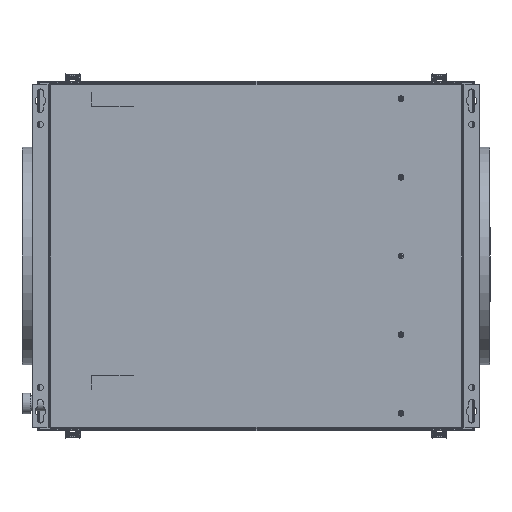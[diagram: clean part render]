
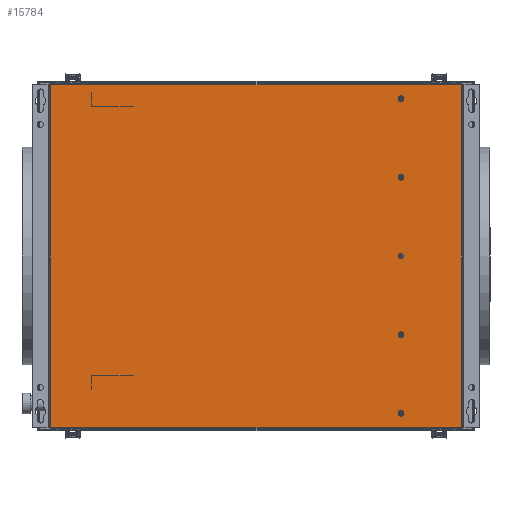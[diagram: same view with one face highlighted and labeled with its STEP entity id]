
A CAD part, front view. The second image highlights one B-rep face of the part: STEP entity #15784.
In plain terms, the highlighted planar face has unit normal (0, -1, 0).
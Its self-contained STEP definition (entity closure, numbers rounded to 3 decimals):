
#119 = AXIS2_PLACEMENT_3D ( 'NONE', #28168, #14746, #1329 ) ;
#535 = ORIENTED_EDGE ( 'NONE', *, *, #23380, .F. ) ;
#654 = DIRECTION ( 'NONE',  ( 0., 0., -1. ) ) ;
#1157 = VECTOR ( 'NONE', #26096, 1000. ) ;
#1175 = CARTESIAN_POINT ( 'NONE',  ( 210., 0., -114. ) ) ;
#1329 = DIRECTION ( 'NONE',  ( 0., 0., -1. ) ) ;
#1420 = DIRECTION ( 'NONE',  ( 0., 0., -1. ) ) ;
#1510 = CARTESIAN_POINT ( 'NONE',  ( -297., 0., 248. ) ) ;
#1733 = EDGE_CURVE ( 'NONE', #9918, #23499, #22818, .T. ) ;
#1844 = LINE ( 'NONE', #1510, #1157 ) ;
#2053 = CARTESIAN_POINT ( 'NONE',  ( 210., 0., -230.1 ) ) ;
#2648 = CIRCLE ( 'NONE', #2673, 2.1 ) ;
#2673 = AXIS2_PLACEMENT_3D ( 'NONE', #13011, #28691, #15276 ) ;
#3190 = CARTESIAN_POINT ( 'NONE',  ( 297., 0., 248. ) ) ;
#3207 = DIRECTION ( 'NONE',  ( 0., -1., 0. ) ) ;
#3425 = DIRECTION ( 'NONE',  ( 0., 0., -1. ) ) ;
#3799 = EDGE_LOOP ( 'NONE', ( #21648, #15936 ) ) ;
#3882 = EDGE_CURVE ( 'NONE', #17069, #19340, #11313, .T. ) ;
#4321 = EDGE_LOOP ( 'NONE', ( #535, #14015 ) ) ;
#4442 = CARTESIAN_POINT ( 'NONE',  ( 210., 0., -228. ) ) ;
#4585 = DIRECTION ( 'NONE',  ( 0., 0., -1. ) ) ;
#5100 = FACE_OUTER_BOUND ( 'NONE', #7826, .T. ) ;
#5321 = VERTEX_POINT ( 'NONE', #17189 ) ;
#5468 = CIRCLE ( 'NONE', #119, 2.1 ) ;
#6144 = CARTESIAN_POINT ( 'NONE',  ( 210., 0., -228. ) ) ;
#6694 = DIRECTION ( 'NONE',  ( 0., 0., -1. ) ) ;
#6736 = CARTESIAN_POINT ( 'NONE',  ( 299., 0., 250. ) ) ;
#7113 = VERTEX_POINT ( 'NONE', #3190 ) ;
#7369 = EDGE_LOOP ( 'NONE', ( #9256, #25908 ) ) ;
#7567 = AXIS2_PLACEMENT_3D ( 'NONE', #4442, #20096, #6694 ) ;
#7741 = ORIENTED_EDGE ( 'NONE', *, *, #10445, .F. ) ;
#7826 = EDGE_LOOP ( 'NONE', ( #10208, #26963, #17728, #14320 ) ) ;
#8185 = DIRECTION ( 'NONE',  ( 0., -1., 0. ) ) ;
#8357 = DIRECTION ( 'NONE',  ( 0., 0., -1. ) ) ;
#8382 = CARTESIAN_POINT ( 'NONE',  ( 210., 0., -225.9 ) ) ;
#8527 = CARTESIAN_POINT ( 'NONE',  ( 210., 0., 114. ) ) ;
#8659 = VERTEX_POINT ( 'NONE', #9288 ) ;
#8993 = VERTEX_POINT ( 'NONE', #8382 ) ;
#9208 = VECTOR ( 'NONE', #11056, 1000. ) ;
#9256 = ORIENTED_EDGE ( 'NONE', *, *, #12677, .F. ) ;
#9288 = CARTESIAN_POINT ( 'NONE',  ( 210., 0., -2.1 ) ) ;
#9333 = CARTESIAN_POINT ( 'NONE',  ( -299., 0., -248. ) ) ;
#9622 = FACE_BOUND ( 'NONE', #19390, .T. ) ;
#9749 = AXIS2_PLACEMENT_3D ( 'NONE', #21625, #8185, #23909 ) ;
#9894 = CARTESIAN_POINT ( 'NONE',  ( 297., 0., -248. ) ) ;
#9918 = VERTEX_POINT ( 'NONE', #27227 ) ;
#9954 = VERTEX_POINT ( 'NONE', #18490 ) ;
#10208 = ORIENTED_EDGE ( 'NONE', *, *, #14141, .T. ) ;
#10325 = FACE_BOUND ( 'NONE', #4321, .T. ) ;
#10445 = EDGE_CURVE ( 'NONE', #5321, #22993, #13651, .T. ) ;
#10798 = DIRECTION ( 'NONE',  ( 0., 0., -1. ) ) ;
#10833 = AXIS2_PLACEMENT_3D ( 'NONE', #6736, #18004, #4585 ) ;
#11056 = DIRECTION ( 'NONE',  ( -1., 0., 0. ) ) ;
#11130 = VERTEX_POINT ( 'NONE', #13367 ) ;
#11313 = LINE ( 'NONE', #9333, #16593 ) ;
#11553 = CARTESIAN_POINT ( 'NONE',  ( 210., 0., 2.1 ) ) ;
#12190 = DIRECTION ( 'NONE',  ( 0., 0., 1. ) ) ;
#12608 = AXIS2_PLACEMENT_3D ( 'NONE', #1175, #16861, #3425 ) ;
#12677 = EDGE_CURVE ( 'NONE', #8659, #16346, #2648, .T. ) ;
#12780 = CARTESIAN_POINT ( 'NONE',  ( -297., 0., -248. ) ) ;
#13011 = CARTESIAN_POINT ( 'NONE',  ( 210., 0., 0. ) ) ;
#13227 = EDGE_CURVE ( 'NONE', #22356, #8993, #25791, .T. ) ;
#13367 = CARTESIAN_POINT ( 'NONE',  ( 210., 0., 116.1 ) ) ;
#13571 = CARTESIAN_POINT ( 'NONE',  ( 210., 0., 225.9 ) ) ;
#13651 = CIRCLE ( 'NONE', #9749, 2.1 ) ;
#13745 = CARTESIAN_POINT ( 'NONE',  ( 210., 0., -116.1 ) ) ;
#14015 = ORIENTED_EDGE ( 'NONE', *, *, #21122, .F. ) ;
#14059 = DIRECTION ( 'NONE',  ( 0., -1., 0. ) ) ;
#14141 = EDGE_CURVE ( 'NONE', #7113, #9954, #19726, .T. ) ;
#14320 = ORIENTED_EDGE ( 'NONE', *, *, #22064, .T. ) ;
#14610 = EDGE_LOOP ( 'NONE', ( #17130, #7741 ) ) ;
#14746 = DIRECTION ( 'NONE',  ( 0., -1., 0. ) ) ;
#14842 = DIRECTION ( 'NONE',  ( 0., -1., 0. ) ) ;
#15276 = DIRECTION ( 'NONE',  ( 0., 0., -1. ) ) ;
#15606 = FACE_BOUND ( 'NONE', #7369, .T. ) ;
#15662 = PLANE ( 'NONE',  #10833 ) ;
#15784 = ADVANCED_FACE ( 'NONE', ( #10325, #21560, #5100, #15606, #19104, #9622 ), #15662, .T. ) ;
#15936 = ORIENTED_EDGE ( 'NONE', *, *, #1733, .F. ) ;
#16346 = VERTEX_POINT ( 'NONE', #11553 ) ;
#16418 = CIRCLE ( 'NONE', #26694, 2.1 ) ;
#16593 = VECTOR ( 'NONE', #18252, 1000. ) ;
#16658 = CARTESIAN_POINT ( 'NONE',  ( 210., 0., 114. ) ) ;
#16861 = DIRECTION ( 'NONE',  ( 0., -1., 0. ) ) ;
#17024 = EDGE_CURVE ( 'NONE', #22993, #5321, #20424, .T. ) ;
#17052 = EDGE_CURVE ( 'NONE', #9954, #17069, #1844, .T. ) ;
#17069 = VERTEX_POINT ( 'NONE', #12780 ) ;
#17130 = ORIENTED_EDGE ( 'NONE', *, *, #17024, .F. ) ;
#17189 = CARTESIAN_POINT ( 'NONE',  ( 210., 0., 230.1 ) ) ;
#17728 = ORIENTED_EDGE ( 'NONE', *, *, #3882, .T. ) ;
#17755 = LINE ( 'NONE', #9894, #28958 ) ;
#18004 = DIRECTION ( 'NONE',  ( 0., -1., 0. ) ) ;
#18252 = DIRECTION ( 'NONE',  ( 1., 0., 0. ) ) ;
#18408 = CARTESIAN_POINT ( 'NONE',  ( 297., 0., -248. ) ) ;
#18490 = CARTESIAN_POINT ( 'NONE',  ( -297., 0., 248. ) ) ;
#18617 = AXIS2_PLACEMENT_3D ( 'NONE', #6144, #21799, #8357 ) ;
#18876 = DIRECTION ( 'NONE',  ( 0., 0., -1. ) ) ;
#19104 = FACE_BOUND ( 'NONE', #3799, .T. ) ;
#19340 = VERTEX_POINT ( 'NONE', #18408 ) ;
#19390 = EDGE_LOOP ( 'NONE', ( #24136, #21766 ) ) ;
#19589 = AXIS2_PLACEMENT_3D ( 'NONE', #8527, #24243, #10798 ) ;
#19726 = LINE ( 'NONE', #19964, #9208 ) ;
#19964 = CARTESIAN_POINT ( 'NONE',  ( 299., 0., 248. ) ) ;
#20096 = DIRECTION ( 'NONE',  ( 0., -1., 0. ) ) ;
#20424 = CIRCLE ( 'NONE', #21569, 2.1 ) ;
#20518 = CIRCLE ( 'NONE', #19589, 2.1 ) ;
#21122 = EDGE_CURVE ( 'NONE', #11130, #24850, #16418, .T. ) ;
#21257 = EDGE_CURVE ( 'NONE', #8993, #22356, #25534, .T. ) ;
#21538 = EDGE_CURVE ( 'NONE', #16346, #8659, #22341, .T. ) ;
#21560 = FACE_BOUND ( 'NONE', #14610, .T. ) ;
#21569 = AXIS2_PLACEMENT_3D ( 'NONE', #28263, #14842, #1420 ) ;
#21625 = CARTESIAN_POINT ( 'NONE',  ( 210., 0., 228. ) ) ;
#21648 = ORIENTED_EDGE ( 'NONE', *, *, #23284, .F. ) ;
#21766 = ORIENTED_EDGE ( 'NONE', *, *, #21257, .F. ) ;
#21799 = DIRECTION ( 'NONE',  ( 0., -1., 0. ) ) ;
#22064 = EDGE_CURVE ( 'NONE', #19340, #7113, #17755, .T. ) ;
#22341 = CIRCLE ( 'NONE', #28592, 2.1 ) ;
#22356 = VERTEX_POINT ( 'NONE', #2053 ) ;
#22818 = CIRCLE ( 'NONE', #12608, 2.1 ) ;
#22993 = VERTEX_POINT ( 'NONE', #13571 ) ;
#23284 = EDGE_CURVE ( 'NONE', #23499, #9918, #5468, .T. ) ;
#23380 = EDGE_CURVE ( 'NONE', #24850, #11130, #20518, .T. ) ;
#23499 = VERTEX_POINT ( 'NONE', #13745 ) ;
#23909 = DIRECTION ( 'NONE',  ( 0., 0., -1. ) ) ;
#24136 = ORIENTED_EDGE ( 'NONE', *, *, #13227, .F. ) ;
#24243 = DIRECTION ( 'NONE',  ( 0., -1., 0. ) ) ;
#24656 = CARTESIAN_POINT ( 'NONE',  ( 210., 0., 111.9 ) ) ;
#24850 = VERTEX_POINT ( 'NONE', #24656 ) ;
#25534 = CIRCLE ( 'NONE', #18617, 2.1 ) ;
#25791 = CIRCLE ( 'NONE', #7567, 2.1 ) ;
#25908 = ORIENTED_EDGE ( 'NONE', *, *, #21538, .F. ) ;
#26096 = DIRECTION ( 'NONE',  ( 0., 0., -1. ) ) ;
#26694 = AXIS2_PLACEMENT_3D ( 'NONE', #16658, #3207, #18876 ) ;
#26963 = ORIENTED_EDGE ( 'NONE', *, *, #17052, .T. ) ;
#27227 = CARTESIAN_POINT ( 'NONE',  ( 210., 0., -111.9 ) ) ;
#27489 = CARTESIAN_POINT ( 'NONE',  ( 210., 0., 0. ) ) ;
#28168 = CARTESIAN_POINT ( 'NONE',  ( 210., 0., -114. ) ) ;
#28263 = CARTESIAN_POINT ( 'NONE',  ( 210., 0., 228. ) ) ;
#28592 = AXIS2_PLACEMENT_3D ( 'NONE', #27489, #14059, #654 ) ;
#28691 = DIRECTION ( 'NONE',  ( 0., -1., 0. ) ) ;
#28958 = VECTOR ( 'NONE', #12190, 1000. ) ;
